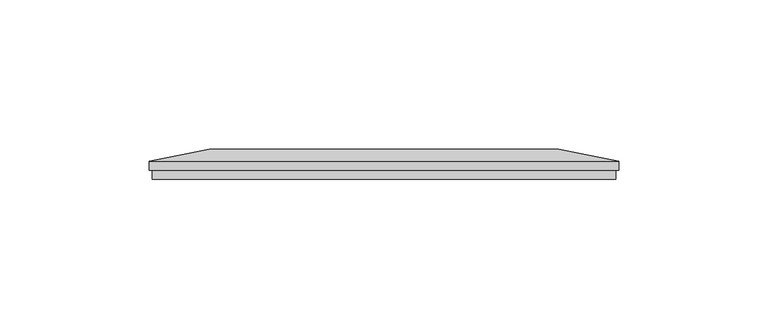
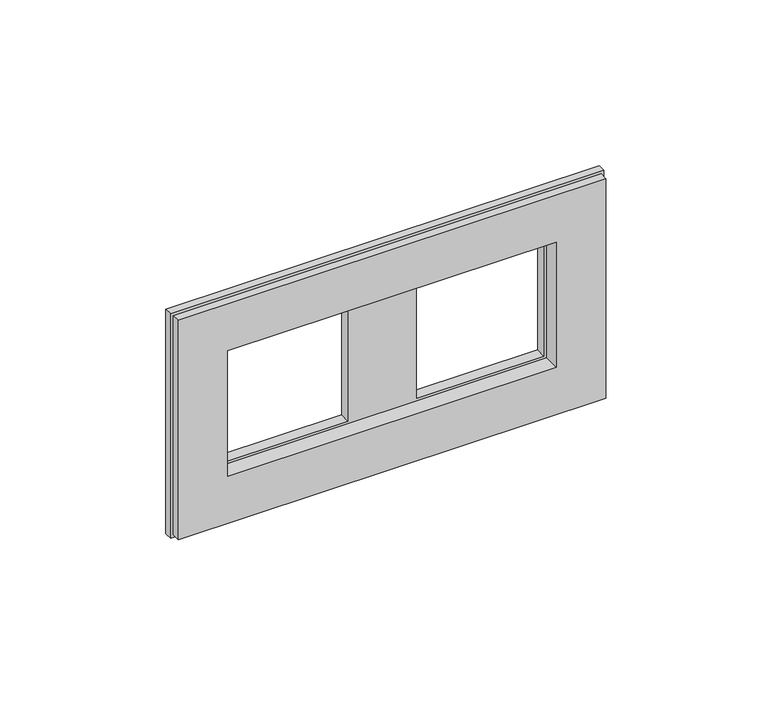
"""IFC4 building model written with IfcOpenShell, lengths in millimetres: proxy geometry, IEK_Skandy_Рамка : x2_SK-F02B."""

from ifc_helpers import new_model, si_unit, origin, place, context, project, spatial, faceted_brep, source, transform, mapped, element, save


def electrical_fixtures_850c403c(model_context):
    return source(origin(), model_context, "Body", "Brep", [
        faceted_brep([(-113.0, 0.0, 42.0), (-113.0, 0.0, -42.0), (42.0, 0.0, -42.0), (42.0, 0.0, 42.0), (-95.0, 0.0, 24.0), (24.0, 0.0, 24.0), (24.0, 0.0, -24.0), (-95.0, 0.0, -24.0), (-113.0, 3.0, 42.0), (-113.0, 3.0, -42.0), (42.0, 3.0, -42.0), (42.0, 3.0, 42.0), (-95.0, 6.0, 24.0), (24.0, 6.0, 24.0), (24.0, 6.0, -24.0), (-95.0, 6.0, -24.0), (-23.0, 10.0, 23.0), (-23.0, 10.0, -23.0), (-48.0, 10.0, -23.0), (-48.0, 10.0, 23.0), (-23.0, 6.0, 23.0), (23.0, 6.0, 23.0), (23.0, 6.0, -23.0), (-23.0, 6.0, -23.0), (-94.0, 6.0, 23.0), (-48.0, 6.0, 23.0), (-48.0, 6.0, -23.0), (-94.0, 6.0, -23.0), (43.0, 6.0, 43.0), (23.0, 10.0, 23.0), (-94.0, 10.0, 23.0), (-114.0, 6.0, 43.0), (43.0, 6.0, -43.0), (23.0, 10.0, -23.0), (-114.0, 6.0, -43.0), (-94.0, 10.0, -23.0), (-114.0, 3.0, 43.0), (-114.0, 3.0, -43.0), (43.0, 3.0, -43.0), (43.0, 3.0, 43.0)], [[[0, 1, 2, 3], [4, 5, 6, 7]], [[1, 0, 8, 9]], [[2, 1, 9, 10]], [[3, 2, 10, 11]], [[0, 3, 11, 8]], [[5, 4, 12, 13]], [[6, 5, 13, 14]], [[7, 6, 14, 15]], [[4, 7, 15, 12]], [[16, 17, 18, 19]], [[13, 12, 15, 14], [20, 21, 22, 23], [24, 25, 26, 27]], [[28, 29, 16, 19, 30, 31]], [[29, 28, 32, 33]], [[33, 32, 34, 35, 18, 17]], [[31, 30, 35, 34]], [[36, 37, 38, 39], [9, 8, 11, 10]], [[37, 36, 31, 34]], [[38, 37, 34, 32]], [[39, 38, 32, 28]], [[36, 39, 28, 31]], [[20, 16, 29, 21]], [[21, 29, 33, 22]], [[22, 33, 17, 23]], [[16, 20, 23, 17]], [[24, 30, 19, 25]], [[25, 19, 18, 26]], [[26, 18, 35, 27]], [[30, 24, 27, 35]]]),
    ])


if __name__ == "__main__":
    model = new_model("IFC4")
    model_context = context("Model", 3, world=origin())
    ifc_project = project(units=[si_unit("LENGTHUNIT", "METRE", prefix="MILLI")], contexts=[model_context])
    site = spatial("IfcSite", under=ifc_project)
    building = spatial("IfcBuilding", under=site)
    placement = place(None, origin())
    electrical_fixtures_shape = electrical_fixtures_850c403c(model_context)
    element("IfcBuildingElementProxy", 1, Name="IEK_Skandy_Рамка : x2_SK-F02B", ObjectType="IEK_Skandy_Рамка : x2_SK-F02B", at=placement, inside=building, context=model_context, shape_type="MappedRepresentation", body=[
        mapped(electrical_fixtures_shape, transform((0.0, 0.0, 0.0), x_axis=(1.0, 0.0, 0.0), y_axis=(0.0, 1.0, 0.0), z_axis=(0.0, 0.0, 1.0))),
    ])
    save(model, "model.ifc")
